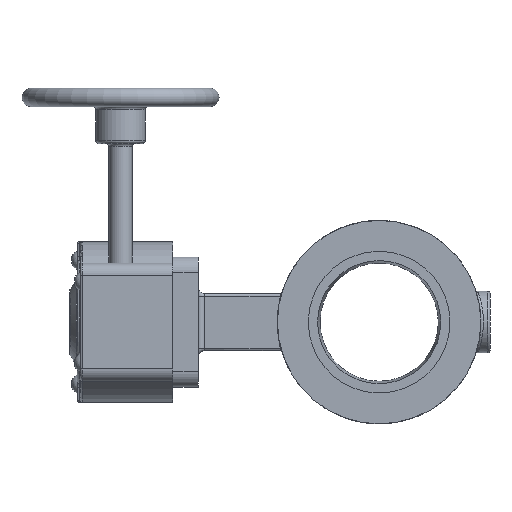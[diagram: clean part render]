
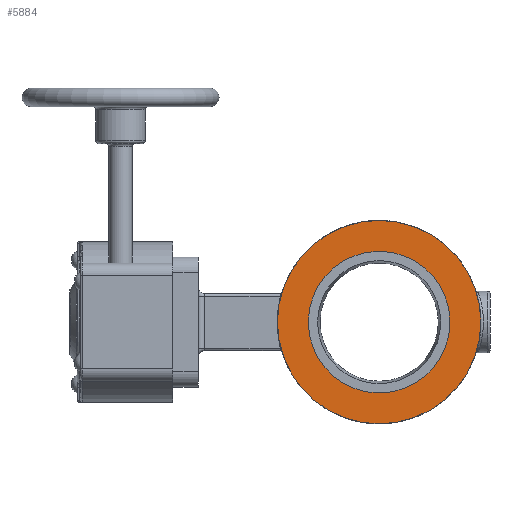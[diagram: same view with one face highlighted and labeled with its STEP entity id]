
A CAD part, left-side view. The second image highlights one B-rep face of the part: STEP entity #5884.
In plain terms, the highlighted planar face has unit normal (-1, 0, 0) as drawn and (0, 0, 1) by its records, which use the part's own axes.
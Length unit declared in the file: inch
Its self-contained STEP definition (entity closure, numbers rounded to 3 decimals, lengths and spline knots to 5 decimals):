
#202=FACE_BOUND('',#795,.T.);
#261=PLANE('',#6437);
#419=FACE_OUTER_BOUND('',#794,.T.);
#794=EDGE_LOOP('',(#3994,#3995));
#795=EDGE_LOOP('',(#3996,#3997));
#1803=CIRCLE('',#6372,2.065);
#1804=CIRCLE('',#6373,2.065);
#1843=CIRCLE('',#6435,1.36);
#1844=CIRCLE('',#6436,1.36);
#2338=VERTEX_POINT('',#9879);
#2339=VERTEX_POINT('',#9881);
#2359=VERTEX_POINT('',#10127);
#2360=VERTEX_POINT('',#10128);
#2907=EDGE_CURVE('',#2338,#2339,#1803,.T.);
#2908=EDGE_CURVE('',#2339,#2338,#1804,.T.);
#2952=EDGE_CURVE('',#2359,#2360,#1843,.T.);
#2953=EDGE_CURVE('',#2360,#2359,#1844,.T.);
#3994=ORIENTED_EDGE('',*,*,#2908,.F.);
#3995=ORIENTED_EDGE('',*,*,#2907,.F.);
#3996=ORIENTED_EDGE('',*,*,#2952,.T.);
#3997=ORIENTED_EDGE('',*,*,#2953,.T.);
#5884=ADVANCED_FACE('',(#419,#202),#261,.T.);
#6372=AXIS2_PLACEMENT_3D('',#9882,#7391,#7392);
#6373=AXIS2_PLACEMENT_3D('',#9883,#7393,#7394);
#6435=AXIS2_PLACEMENT_3D('',#10129,#7520,#7521);
#6436=AXIS2_PLACEMENT_3D('',#10130,#7522,#7523);
#6437=AXIS2_PLACEMENT_3D('',#10132,#7525,#7526);
#7391=DIRECTION('center_axis',(0.,0.,-1.));
#7392=DIRECTION('ref_axis',(1.,0.,0.));
#7393=DIRECTION('center_axis',(0.,0.,-1.));
#7394=DIRECTION('ref_axis',(1.,0.,0.));
#7520=DIRECTION('center_axis',(0.,0.,-1.));
#7521=DIRECTION('ref_axis',(1.,0.,0.));
#7522=DIRECTION('center_axis',(0.,0.,-1.));
#7523=DIRECTION('ref_axis',(1.,0.,0.));
#7525=DIRECTION('center_axis',(0.,0.,1.));
#7526=DIRECTION('ref_axis',(1.,0.,0.));
#9879=CARTESIAN_POINT('',(0.,-2.065,1.062));
#9881=CARTESIAN_POINT('',(0.,2.065,1.062));
#9882=CARTESIAN_POINT('Origin',(0.,0.,1.062));
#9883=CARTESIAN_POINT('Origin',(0.,0.,1.062));
#10127=CARTESIAN_POINT('',(0.,1.36,1.062));
#10128=CARTESIAN_POINT('',(0.,-1.36,1.062));
#10129=CARTESIAN_POINT('Origin',(0.,0.,1.062));
#10130=CARTESIAN_POINT('Origin',(0.,0.,1.062));
#10132=CARTESIAN_POINT('Origin',(0.,2.065,1.062));
